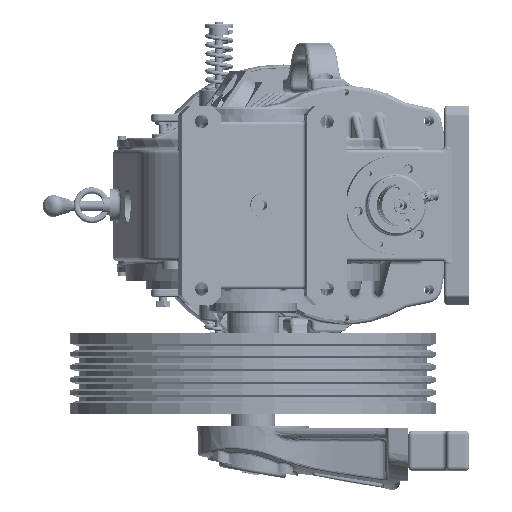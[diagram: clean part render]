
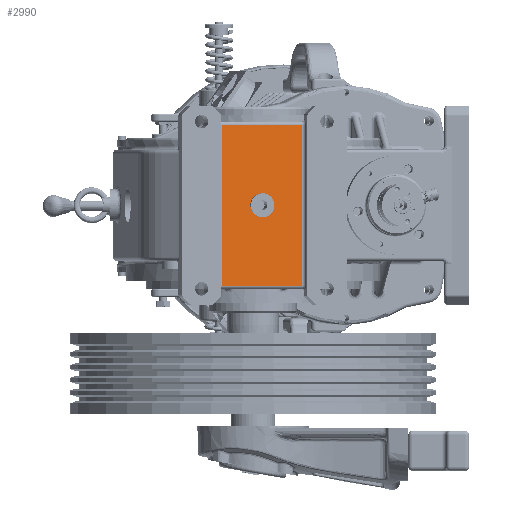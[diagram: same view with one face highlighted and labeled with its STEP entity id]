
A CAD part, front view. The second image highlights one B-rep face of the part: STEP entity #2990.
In plain terms, the highlighted planar face has unit normal (0.174, -0.985, 0).
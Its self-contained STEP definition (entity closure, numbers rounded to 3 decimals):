
#2990 = ADVANCED_FACE ( 'NONE', ( #244610, #90428 ), #204562, .T. ) ;
#10456 = CARTESIAN_POINT ( 'NONE',  ( -136.523, -340.424, 101. ) ) ;
#14507 = ORIENTED_EDGE ( 'NONE', *, *, #89746, .F. ) ;
#15956 = DIRECTION ( 'NONE',  ( 0.985, 0.174, 0. ) ) ;
#16764 = VECTOR ( 'NONE', #204605, 1000. ) ;
#18420 = LINE ( 'NONE', #262477, #278775 ) ;
#23173 = ORIENTED_EDGE ( 'NONE', *, *, #90119, .F. ) ;
#27876 = DIRECTION ( 'NONE',  ( 0.985, 0.174, 0. ) ) ;
#31009 = CARTESIAN_POINT ( 'NONE',  ( -156.219, -343.896, 0. ) ) ;
#38179 = VERTEX_POINT ( 'NONE', #254271 ) ;
#39221 = CARTESIAN_POINT ( 'NONE',  ( -105.994, -335.04, -101. ) ) ;
#44251 = CARTESIAN_POINT ( 'NONE',  ( -141.447, -341.292, 0. ) ) ;
#45034 = AXIS2_PLACEMENT_3D ( 'NONE', #31009, #113949, #72463 ) ;
#54196 = EDGE_CURVE ( 'NONE', #81957, #245809, #180362, .T. ) ;
#72463 = DIRECTION ( 'NONE',  ( 0.985, 0.174, 0. ) ) ;
#72869 = LINE ( 'NONE', #95704, #161572 ) ;
#72908 = EDGE_CURVE ( 'NONE', #38179, #199278, #18420, .T. ) ;
#81957 = VERTEX_POINT ( 'NONE', #208520 ) ;
#89746 = EDGE_CURVE ( 'NONE', #131120, #235698, #168325, .T. ) ;
#90119 = EDGE_CURVE ( 'NONE', #235698, #131120, #277784, .T. ) ;
#90428 = FACE_OUTER_BOUND ( 'NONE', #247852, .T. ) ;
#95587 = ORIENTED_EDGE ( 'NONE', *, *, #228501, .T. ) ;
#95704 = CARTESIAN_POINT ( 'NONE',  ( -206.444, -352.753, -101. ) ) ;
#109693 = ORIENTED_EDGE ( 'NONE', *, *, #268382, .T. ) ;
#113949 = DIRECTION ( 'NONE',  ( 0.174, -0.985, 0. ) ) ;
#125373 = EDGE_LOOP ( 'NONE', ( #14507, #23173 ) ) ;
#127284 = DIRECTION ( 'NONE',  ( 0.174, -0.985, 0. ) ) ;
#131120 = VERTEX_POINT ( 'NONE', #268191 ) ;
#156751 = LINE ( 'NONE', #243815, #176835 ) ;
#157548 = DIRECTION ( 'NONE',  ( 0.174, -0.985, 0. ) ) ;
#161572 = VECTOR ( 'NONE', #204222, 1000. ) ;
#168241 = CARTESIAN_POINT ( 'NONE',  ( -206.444, -352.753, 101. ) ) ;
#168325 = CIRCLE ( 'NONE', #45034, 15. ) ;
#168642 = CARTESIAN_POINT ( 'NONE',  ( -156.219, -343.896, 0. ) ) ;
#176835 = VECTOR ( 'NONE', #282410, 1000. ) ;
#177522 = DIRECTION ( 'NONE',  ( 0.985, 0.174, 0. ) ) ;
#180362 = LINE ( 'NONE', #10456, #16764 ) ;
#186669 = AXIS2_PLACEMENT_3D ( 'NONE', #168642, #127284, #15956 ) ;
#199278 = VERTEX_POINT ( 'NONE', #39221 ) ;
#204222 = DIRECTION ( 'NONE',  ( 0., 0., -1. ) ) ;
#204562 = PLANE ( 'NONE',  #277988 ) ;
#204605 = DIRECTION ( 'NONE',  ( -0.985, -0.174, 0. ) ) ;
#208520 = CARTESIAN_POINT ( 'NONE',  ( -105.994, -335.04, 101. ) ) ;
#228501 = EDGE_CURVE ( 'NONE', #245809, #38179, #72869, .T. ) ;
#235698 = VERTEX_POINT ( 'NONE', #44251 ) ;
#243815 = CARTESIAN_POINT ( 'NONE',  ( -105.994, -335.04, 101. ) ) ;
#244610 = FACE_BOUND ( 'NONE', #125373, .T. ) ;
#245809 = VERTEX_POINT ( 'NONE', #168241 ) ;
#247852 = EDGE_LOOP ( 'NONE', ( #251638, #95587, #278406, #109693 ) ) ;
#251638 = ORIENTED_EDGE ( 'NONE', *, *, #54196, .T. ) ;
#254271 = CARTESIAN_POINT ( 'NONE',  ( -206.444, -352.753, -101. ) ) ;
#262477 = CARTESIAN_POINT ( 'NONE',  ( -136.523, -340.424, -101. ) ) ;
#266018 = CARTESIAN_POINT ( 'NONE',  ( -136.523, -340.424, -70. ) ) ;
#268191 = CARTESIAN_POINT ( 'NONE',  ( -170.991, -346.501, 0. ) ) ;
#268382 = EDGE_CURVE ( 'NONE', #199278, #81957, #156751, .T. ) ;
#277784 = CIRCLE ( 'NONE', #186669, 15. ) ;
#277988 = AXIS2_PLACEMENT_3D ( 'NONE', #266018, #157548, #177522 ) ;
#278406 = ORIENTED_EDGE ( 'NONE', *, *, #72908, .T. ) ;
#278775 = VECTOR ( 'NONE', #27876, 1000. ) ;
#282410 = DIRECTION ( 'NONE',  ( 0., 0., 1. ) ) ;
